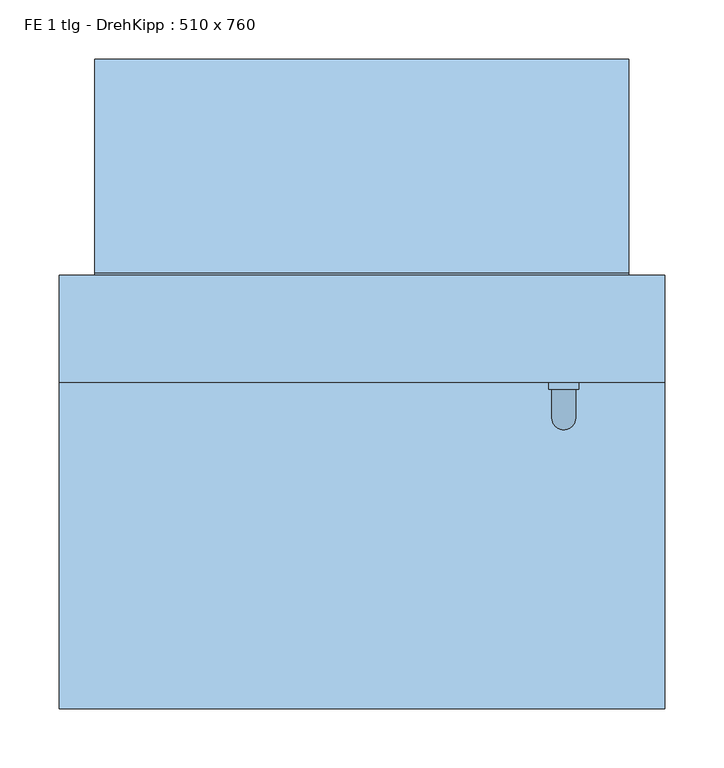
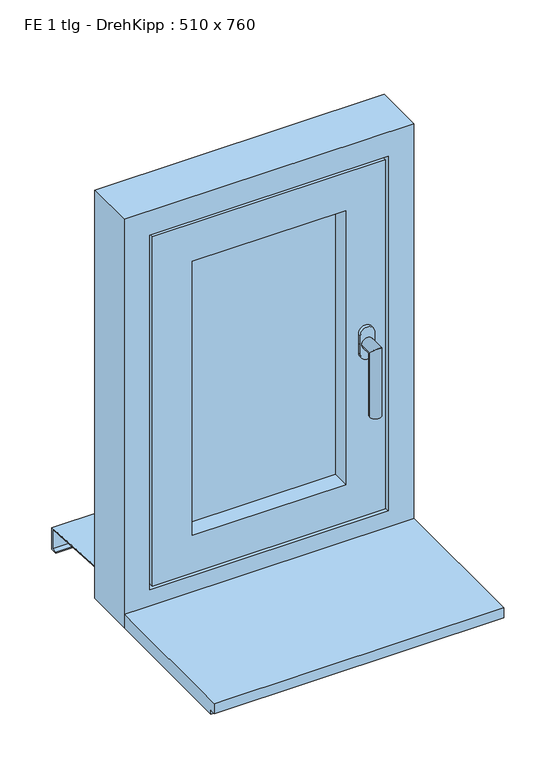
"""IFC4 building model written with IfcOpenShell, lengths in millimetres: window geometry, FE 1 tlg - DrehKipp : 510 x 760."""

from ifc_helpers import new_model, si_unit, frame, origin, place, context, project, spatial, polyline, circle_curve, ellipse_curve, outline, extrude, faceted_brep, source, transform, mapped, element, save
from ifc_brep_helpers import plane_surface, cylinder_surface, advanced_brep


def fe_1_tlg_drehkipp_510_x_760_2ecf23b0(model_context):
    return source(origin(), model_context, "Body", "SolidModel", [
        advanced_brep(
        [(157.5, 12.5, 1252.5), (182.5, 12.5, 1252.5), (182.5, 12.5, 1235.0), (182.5, 12.5, 1217.5), (157.5, 12.5, 1217.5), (157.5, 12.5, 1235.0), (180.0, -17.5, 1235.0), (180.0, 6.5, 1235.0), (160.0, 6.5, 1235.0), (160.0, -17.5, 1235.0), (180.0, -17.5, 1115.0), (160.0, -17.5, 1115.0), (157.5, 6.5, 1252.5), (157.5, 6.5, 1235.0), (157.5, 6.5, 1217.5), (182.5, 6.5, 1217.5), (182.5, 6.5, 1235.0), (182.5, 6.5, 1252.5)],
        [
            (0, 1, circle_curve(frame((170.0, 12.5, 1252.5), z_axis=(0.0, 1.0, 0.0), x_axis=(-1.0, 0.0, 0.0)), 12.5)),
            (1, 2),
            (2, 3),
            (3, 4, circle_curve(frame((170.0, 12.5, 1217.5), z_axis=(0.0, 1.0, 0.0), x_axis=(-1.0, 0.0, 0.0)), 12.5)),
            (4, 5),
            (5, 0),
            (6, 7),
            (7, 8, circle_curve(frame((170.0, 6.5, 1235.0), z_axis=(0.0, -1.0, 0.0), x_axis=(-1.0, 0.0, 0.0)), 10.0)),
            (8, 9),
            (9, 6, ellipse_curve(frame((170.0, -17.5, 1235.0), z_axis=(0.0, 0.7071067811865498, 0.7071067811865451), x_axis=(0.0, 0.7071067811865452, -0.7071067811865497)), 14.1421356, 10.0)),
            (8, 7, circle_curve(frame((170.0, 6.5, 1235.0), z_axis=(0.0, -1.0, 0.0), x_axis=(-1.0, 0.0, 0.0)), 10.0)),
            (6, 9, ellipse_curve(frame((170.0, -17.5, 1235.0), z_axis=(0.0, 0.7071067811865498, 0.7071067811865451), x_axis=(0.0, 0.7071067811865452, -0.7071067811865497)), 14.1421356, 10.0)),
            (10, 11, circle_curve(frame((170.0, -17.5, 1115.0), z_axis=(0.0, 0.0, -1.0), x_axis=(-1.0, 0.0, 0.0)), 10.0)),
            (11, 10, circle_curve(frame((170.0, -17.5, 1115.0), z_axis=(0.0, 0.0, -1.0), x_axis=(-1.0, 0.0, 0.0)), 10.0)),
            (9, 11),
            (10, 6),
            (12, 13),
            (13, 14),
            (14, 15, circle_curve(frame((170.0, 6.5, 1217.5), z_axis=(0.0, -1.0, 0.0), x_axis=(-1.0, 0.0, 0.0)), 12.5)),
            (15, 16),
            (16, 17),
            (17, 12, circle_curve(frame((170.0, 6.5, 1252.5), z_axis=(0.0, -1.0, 0.0), x_axis=(-1.0, 0.0, 0.0)), 12.5)),
            (17, 1),
            (0, 12),
            (16, 2),
            (15, 3),
            (14, 4),
            (13, 5),
        ],
        [
            plane_surface(frame((170.0, 12.5, 1235.0), z_axis=(0.0, 1.0, 0.0), x_axis=(-1.0, 0.0, 0.0))),
            cylinder_surface(frame((170.0, 12.5, 1235.0), z_axis=(0.0, 1.0, 0.0), x_axis=(-1.0, 0.0, 0.0)), 10.0),
            plane_surface(frame((170.0, -17.5, 1115.0), z_axis=(0.0, 0.0, -1.0), x_axis=(-1.0, 0.0, 0.0))),
            cylinder_surface(frame((170.0, -17.5, 1235.0), z_axis=(0.0, 0.0, 1.0), x_axis=(-1.0, 0.0, 0.0)), 10.0),
            plane_surface(frame((157.5, 6.5, 1252.5), z_axis=(0.0, -1.0, 0.0), x_axis=(0.0, 0.0, 1.0))),
            cylinder_surface(frame((170.0, 12.5, 1252.5), z_axis=(0.0, -1.0, 0.0), x_axis=(-1.0, 0.0, 0.0)), 12.5),
            plane_surface(frame((182.5, 6.5, 1252.5), z_axis=(1.0, 0.0, 0.0), x_axis=(0.0, 1.0, 0.0))),
            plane_surface(frame((182.5, 6.5, 1235.0), z_axis=(1.0, 0.0, 0.0), x_axis=(0.0, 1.0, 0.0))),
            cylinder_surface(frame((170.0, 12.5, 1217.5), z_axis=(0.0, -1.0, 0.0), x_axis=(-1.0, 0.0, 0.0)), 12.5),
            plane_surface(frame((157.5, 6.5, 1217.5), z_axis=(-1.0, 0.0, 0.0), x_axis=(0.0, 1.0, 0.0))),
            plane_surface(frame((157.5, 6.5, 1235.0), z_axis=(-1.0, 0.0, 0.0), x_axis=(0.0, 1.0, 0.0))),
        ],
        [
            (0, [[1, 2, 3, 4, 5, 6]]),
            (1, [[7, 8, 9, 10]]),
            (1, [[-9, 11, -7, 12]]),
            (2, [[13, 14]]),
            (3, [[15, -13, 16, -10]]),
            (3, [[-16, -14, -15, -12]]),
            (4, [[17, 18, 19, 20, 21, 22], [-11, -8]]),
            (5, [[23, -1, 24, -22]]),
            (6, [[25, -2, -23, -21]]),
            (7, [[26, -3, -25, -20]]),
            (8, [[27, -4, -26, -19]]),
            (9, [[28, -5, -27, -18]]),
            (10, [[-24, -6, -28, -17]]),
        ],
    ),
        faceted_brep([(-135.0, 12.5, 1490.0), (-135.0, 12.5, 980.0), (-135.0, 102.5, 980.0), (-135.0, 102.5, 1490.0), (-165.0, 102.5, 950.0), (-165.0, 102.5, 1520.0), (165.0, 102.5, 1520.0), (165.0, 102.5, 950.0), (135.0, 102.5, 980.0), (135.0, 102.5, 1490.0), (135.0, 12.5, 980.0), (-205.0, 12.5, 1560.0), (-205.0, 12.5, 910.0), (205.0, 12.5, 910.0), (205.0, 12.5, 1560.0), (135.0, 12.5, 1490.0), (-205.0, 27.5, 1560.0), (-205.0, 27.5, 910.0), (205.0, 27.5, 910.0), (205.0, 27.5, 1560.0), (-190.0, 27.5, 1545.0), (-190.0, 27.5, 925.0), (190.0, 27.5, 925.0), (190.0, 27.5, 1545.0), (-190.0, 57.5, 1545.0), (-190.0, 57.5, 925.0), (190.0, 57.5, 925.0), (190.0, 57.5, 1545.0), (-180.0, 57.5, 1535.0), (-180.0, 57.5, 935.0), (180.0, 57.5, 935.0), (180.0, 57.5, 1535.0), (-180.0, 87.5, 1535.0), (-180.0, 87.5, 935.0), (180.0, 87.5, 935.0), (180.0, 87.5, 1535.0), (-165.0, 87.5, 1520.0), (-165.0, 87.5, 950.0), (165.0, 87.5, 950.0), (165.0, 87.5, 1520.0)], [[[0, 1, 2, 3]], [[4, 5, 6, 7], [3, 2, 8, 9]], [[1, 10, 8, 2]], [[11, 12, 13, 14], [1, 0, 15, 10]], [[16, 17, 12, 11]], [[17, 18, 13, 12]], [[17, 16, 19, 18], [20, 21, 22, 23]], [[24, 25, 21, 20]], [[25, 26, 22, 21]], [[25, 24, 27, 26], [28, 29, 30, 31]], [[32, 33, 29, 28]], [[33, 34, 30, 29]], [[33, 32, 35, 34], [36, 37, 38, 39]], [[5, 4, 37, 36]], [[4, 7, 38, 37]], [[10, 15, 9, 8]], [[18, 19, 14, 13]], [[26, 27, 23, 22]], [[34, 35, 31, 30]], [[7, 6, 39, 38]], [[15, 0, 3, 9]], [[19, 16, 11, 14]], [[27, 24, 20, 23]], [[35, 32, 28, 31]], [[6, 5, 36, 39]]]),
        extrude(outline(polyline([(-135.0, 87.5), (135.0, 87.5), (135.0, 43.5), (-135.0, 43.5), (-135.0, 87.5)])), frame((0.0, 0.0, 980.0), z_axis=(0.0, 0.0, 1.0), x_axis=(1.0, 0.0, 0.0)), (0.0, 0.0, 1.0), 510.0),
        faceted_brep([(-225.0, 284.5, 860.6252434), (-225.0, 262.5, 862.0002434), (-225.0, 104.5, 871.8752434), (225.0, 104.5, 871.8752434), (225.0, 262.5, 862.0002434), (225.0, 284.5, 860.6252434), (-225.0, 284.5, 820.6252434), (225.0, 284.5, 820.6252434), (-225.0, 272.5, 820.6252434), (225.0, 272.5, 820.6252434), (-225.0, 272.5, 822.6252434), (225.0, 272.5, 822.6252434), (-225.0, 282.5, 822.6252434), (225.0, 282.5, 822.6252434), (-225.0, 282.5, 858.75), (225.0, 282.5, 858.75), (-225.0, 262.5, 860.0), (225.0, 262.5, 860.0), (225.0, 102.5, 870.0), (-225.0, 102.5, 870.0), (-225.0, 102.5, 890.0), (225.0, 102.5, 890.0), (-225.0, 104.5, 890.0), (225.0, 104.5, 890.0)], [[[0, 1, 2, 3, 4, 5]], [[6, 0, 5, 7]], [[8, 6, 7, 9]], [[10, 8, 9, 11]], [[12, 10, 11, 13]], [[14, 12, 13, 15]], [[16, 14, 15, 17, 18, 19]], [[20, 19, 18, 21]], [[22, 20, 21, 23]], [[2, 22, 23, 3]], [[16, 1, 0, 6, 8, 10, 12, 14]], [[17, 4, 3, 23, 21, 18]], [[1, 16, 19, 20, 22, 2]], [[4, 17, 15, 13, 11, 9, 7, 5]]]),
        faceted_brep([(255.0, 102.5, 850.0), (255.0, 12.5, 850.0), (-255.0, 12.5, 850.0), (-255.0, 102.5, 850.0), (255.0, 102.5, 1610.0), (255.0, 12.5, 1610.0), (-255.0, 12.5, 1610.0), (210.0, 12.5, 1565.0), (210.0, 12.5, 905.0), (-210.0, 12.5, 905.0), (-210.0, 12.5, 1565.0), (-255.0, 102.5, 1610.0), (170.0, 102.5, 945.0), (170.0, 102.5, 1525.0), (-170.0, 102.5, 1525.0), (-170.0, 102.5, 945.0), (170.0, 87.5, 945.0), (170.0, 87.5, 1525.0), (-170.0, 87.5, 945.0), (-170.0, 87.5, 1525.0), (210.0, 27.5, 1565.0), (210.0, 27.5, 905.0), (-210.0, 27.5, 905.0), (-210.0, 27.5, 1565.0), (195.0, 27.5, 1550.0), (195.0, 27.5, 920.0), (-195.0, 27.5, 920.0), (-195.0, 27.5, 1550.0), (195.0, 57.5, 920.0), (195.0, 57.5, 1550.0), (-195.0, 57.5, 1550.0), (-195.0, 57.5, 920.0), (185.0, 57.5, 1540.0), (185.0, 57.5, 930.0), (-185.0, 57.5, 930.0), (-185.0, 57.5, 1540.0), (185.0, 87.5, 930.0), (185.0, 87.5, 1540.0), (-185.0, 87.5, 1540.0), (-185.0, 87.5, 930.0)], [[[0, 1, 2, 3]], [[4, 5, 1, 0]], [[5, 6, 2, 1], [7, 8, 9, 10]], [[6, 11, 3, 2]], [[11, 4, 0, 3], [12, 13, 14, 15]], [[12, 16, 17, 13]], [[18, 15, 14, 19]], [[16, 12, 15, 18]], [[20, 21, 8, 7]], [[8, 21, 22, 9]], [[9, 22, 23, 10]], [[21, 20, 23, 22], [24, 25, 26, 27]], [[28, 29, 30, 31], [32, 33, 34, 35]], [[29, 28, 25, 24]], [[25, 28, 31, 26]], [[36, 37, 38, 39], [17, 16, 18, 19]], [[37, 36, 33, 32]], [[33, 36, 39, 34]], [[26, 31, 30, 27]], [[34, 39, 38, 35]], [[4, 11, 6, 5]], [[20, 7, 10, 23]], [[29, 24, 27, 30]], [[37, 32, 35, 38]], [[13, 17, 19, 14]]]),
        extrude(outline(polyline([(-262.5, 875.0), (12.5, 875.0), (12.5, 850.0), (-252.5, 850.0), (-252.5, 857.0), (-262.5, 857.0), (-262.5, 875.0)])), frame((-255.0, 0.0, 0.0), z_axis=(1.0, 0.0, 0.0), x_axis=(0.0, 1.0, 0.0)), (0.0, 0.0, 1.0), 510.0),
    ])


if __name__ == "__main__":
    model = new_model("IFC4")
    model_context = context("Model", 3, world=origin())
    ifc_project = project(units=[si_unit("LENGTHUNIT", "METRE", prefix="MILLI")], contexts=[model_context])
    site = spatial("IfcSite", under=ifc_project)
    building = spatial("IfcBuilding", under=site)
    placement = place(None, origin())
    fe_1_tlg_drehkipp_510_x_760_shape = fe_1_tlg_drehkipp_510_x_760_2ecf23b0(model_context)
    element("IfcWindow", 1, ObjectType="FE 1 tlg - DrehKipp : 510 x 760", at=placement, inside=building, context=model_context, shape_type="MappedRepresentation", body=[
        mapped(fe_1_tlg_drehkipp_510_x_760_shape, transform((0.0, 0.0, 0.0), x_axis=(1.0, 0.0, 0.0), y_axis=(0.0, 1.0, 0.0), z_axis=(0.0, 0.0, 1.0))),
    ])
    save(model, "model.ifc")
